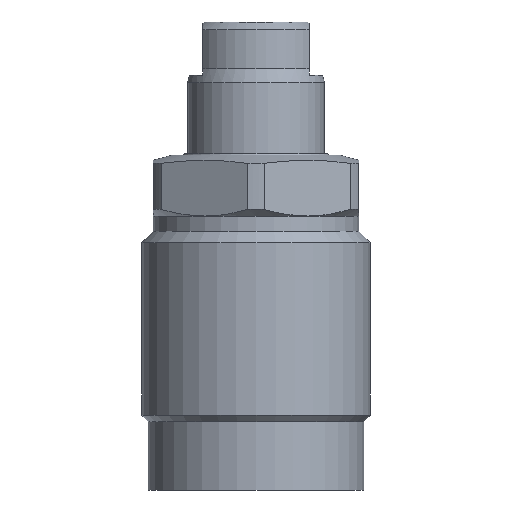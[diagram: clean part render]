
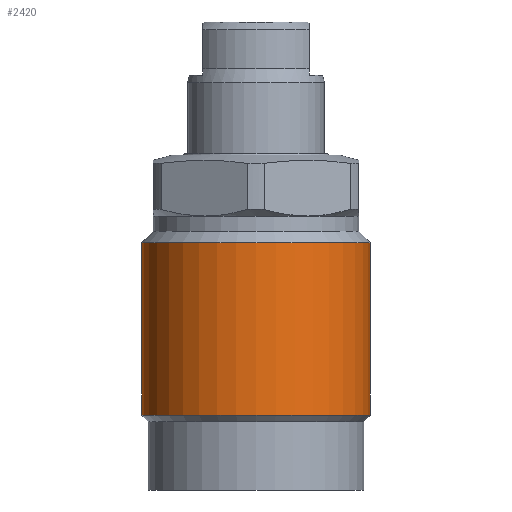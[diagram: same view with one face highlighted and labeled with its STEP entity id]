
A CAD part, front view. The second image highlights one B-rep face of the part: STEP entity #2420.
In plain terms, the highlighted cylindrical face has radius 15 mm (diameter 30 mm), a partial arc.
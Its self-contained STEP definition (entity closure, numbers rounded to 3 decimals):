
#484 = AXIS2_PLACEMENT_3D ( 'NONE', #774, #771, #777 ) ;
#622 = EDGE_CURVE ( 'NONE', #2152, #2154, #1313, .T. ) ;
#623 = EDGE_CURVE ( 'NONE', #2151, #2153, #1318, .T. ) ;
#634 = EDGE_CURVE ( 'NONE', #2152, #2151, #2734, .T. ) ;
#635 = EDGE_CURVE ( 'NONE', #2154, #2153, #2738, .T. ) ;
#771 = DIRECTION ( 'NONE',  ( 0., 0., 1. ) ) ;
#773 = FACE_OUTER_BOUND ( 'NONE', #1163, .T. ) ;
#774 = CARTESIAN_POINT ( 'NONE',  ( 0., 0., -1.097 ) ) ;
#776 = CYLINDRICAL_SURFACE ( 'NONE', #484, 15. ) ;
#777 = DIRECTION ( 'NONE',  ( 1., 0., 0. ) ) ;
#1163 = EDGE_LOOP ( 'NONE', ( #2606, #2588, #2552, #2598 ) ) ;
#1310 = CARTESIAN_POINT ( 'NONE',  ( -15., 0., -1.097 ) ) ;
#1313 = LINE ( 'NONE', #1310, #2723 ) ;
#1317 = DIRECTION ( 'NONE',  ( 0., 0., 1. ) ) ;
#1318 = LINE ( 'NONE', #1319, #2726 ) ;
#1319 = CARTESIAN_POINT ( 'NONE',  ( 15., 0., -1.097 ) ) ;
#1320 = DIRECTION ( 'NONE',  ( 0., 0., 1. ) ) ;
#1360 = CARTESIAN_POINT ( 'NONE',  ( 0., 0., -34.15 ) ) ;
#1361 = DIRECTION ( 'NONE',  ( 0., 0., 1. ) ) ;
#1362 = DIRECTION ( 'NONE',  ( 1., 0., 0. ) ) ;
#1364 = CARTESIAN_POINT ( 'NONE',  ( 0., 0., -11.5 ) ) ;
#1365 = DIRECTION ( 'NONE',  ( 0., 0., 1. ) ) ;
#1366 = DIRECTION ( 'NONE',  ( 1., 0., 0. ) ) ;
#1688 = CARTESIAN_POINT ( 'NONE',  ( 15., 0., -34.15 ) ) ;
#1689 = CARTESIAN_POINT ( 'NONE',  ( -15., 0., -34.15 ) ) ;
#1690 = CARTESIAN_POINT ( 'NONE',  ( 15., 0., -11.5 ) ) ;
#1691 = CARTESIAN_POINT ( 'NONE',  ( -15., 0., -11.5 ) ) ;
#2151 = VERTEX_POINT ( 'NONE', #1688 ) ;
#2152 = VERTEX_POINT ( 'NONE', #1689 ) ;
#2153 = VERTEX_POINT ( 'NONE', #1690 ) ;
#2154 = VERTEX_POINT ( 'NONE', #1691 ) ;
#2420 = ADVANCED_FACE ( 'NONE', ( #773 ), #776, .T. ) ;
#2552 = ORIENTED_EDGE ( 'NONE', *, *, #623, .T. ) ;
#2588 = ORIENTED_EDGE ( 'NONE', *, *, #634, .T. ) ;
#2598 = ORIENTED_EDGE ( 'NONE', *, *, #635, .F. ) ;
#2606 = ORIENTED_EDGE ( 'NONE', *, *, #622, .F. ) ;
#2723 = VECTOR ( 'NONE', #1317, 1000. ) ;
#2726 = VECTOR ( 'NONE', #1320, 1000. ) ;
#2734 = CIRCLE ( 'NONE', #2739, 15. ) ;
#2738 = CIRCLE ( 'NONE', #2741, 15. ) ;
#2739 = AXIS2_PLACEMENT_3D ( 'NONE', #1360, #1361, #1362 ) ;
#2741 = AXIS2_PLACEMENT_3D ( 'NONE', #1364, #1365, #1366 ) ;
